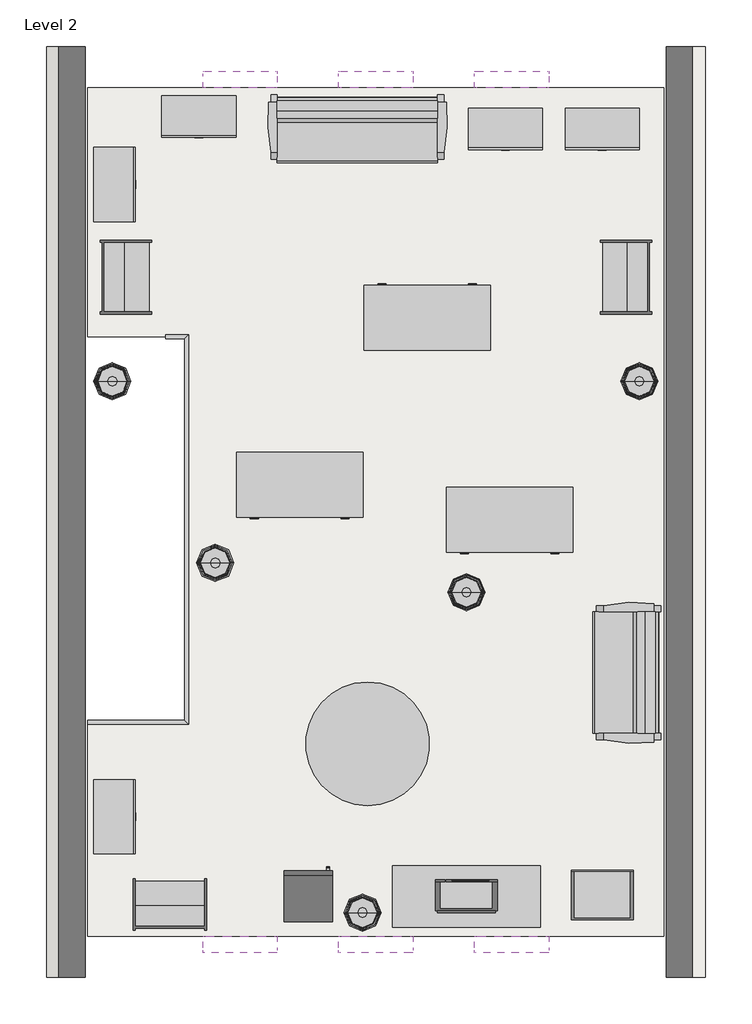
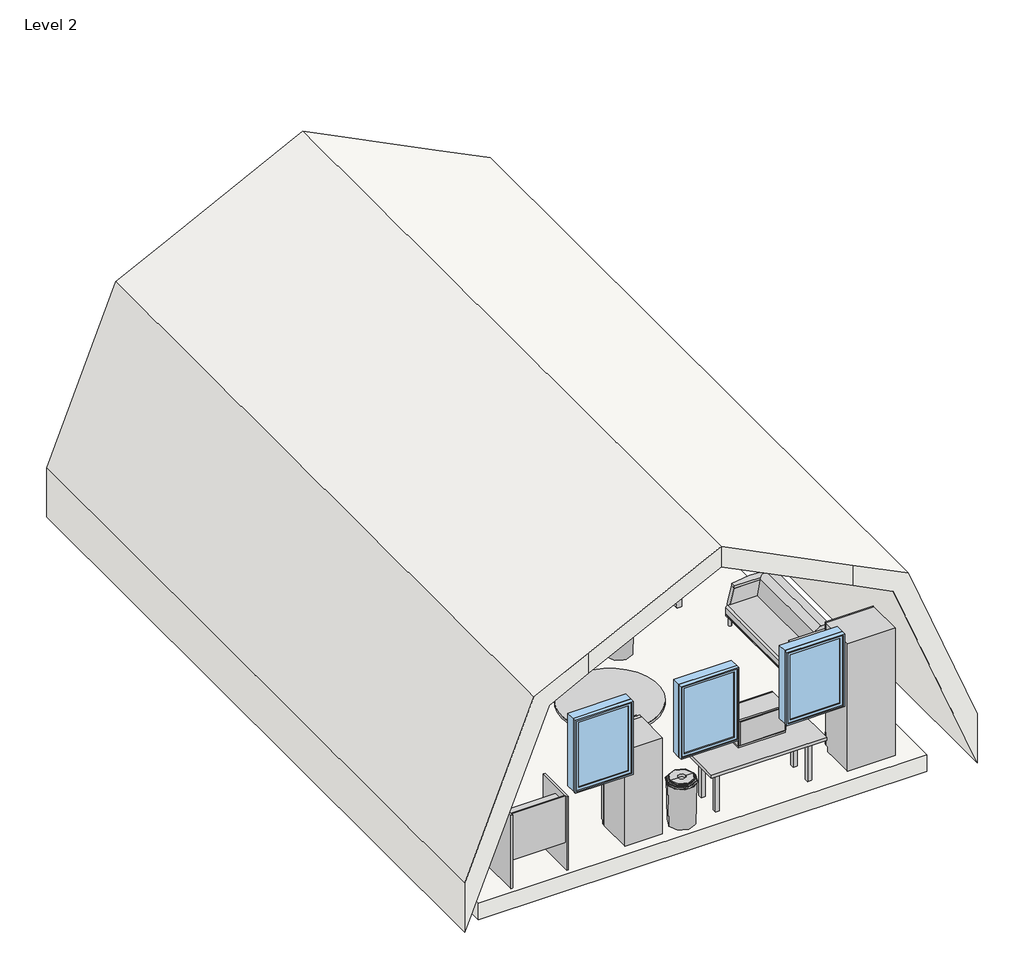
# One storey, incomplete: 13 furniture elements, 10 proxies, 6 windows, 1 railing, 1 roof, 1 slab.
"""IFC4 building model written with IfcOpenShell, lengths in millimetres."""

from ifc_helpers import new_model, si_unit, frame, origin, place, context, project, spatial, polyline, outline, extrude, faceted_brep, transform, mapped, element, save
from components import proxy_8a8d5ab2, recycle_bin_round_recycle_bin_round_6e7ed866, recycle_bin_round_recycle_bin_round_0a3017ed, proxy_c523a7b7, single_carrel_single_carrel_ed4d160c, single_carrel_single_carrel_0b646c7b, furniture_072f6425, furniture_ad7727fe, furniture_aff9b2fb, furniture_e1dba61b, furniture_bbcc68ce, furniture_a5b052b6, furniture_fb6977ac, window_209efcd5, window_e2841890

model = new_model("IFC4")

# Units and contexts
model_context = context("Model", 3, world=origin())
ifc_project = project(units=[si_unit("LENGTHUNIT", "METRE", prefix="MILLI")], contexts=[model_context])

# Site, building, storey
site = spatial("IfcSite", under=ifc_project)
building = spatial("IfcBuilding", under=site)
storey = spatial("IfcBuildingStorey", under=building, Name="Level 2", Elevation=3048.0)

# Proxies
placement = place(None, origin())
proxy_shape = proxy_8a8d5ab2(model_context)
element("IfcBuildingElementProxy", 1, Name="Microwave : 30\" x 16\" x 18\"", ObjectType="Microwave : 30\" x 16\" x 18\"", at=placement, inside=storey, context=model_context, shape_type="MappedRepresentation", body=[
    mapped(proxy_shape, transform((1298.9929626, -2842.4521645, 3048.0), x_axis=(-1.0, 0.0, 0.0), y_axis=(0.0, -1.0, 0.0), z_axis=(0.0, 0.0, 1.0))),
])
recycle_bin_round_recycle_bin_round_shape = recycle_bin_round_recycle_bin_round_6e7ed866(model_context)
element("IfcBuildingElementProxy", 2, Name="Recycle Bin-Round : Recycle Bin-Round", ObjectType="Recycle Bin-Round : Recycle Bin-Round", at=placement, inside=storey, context=model_context, shape_type="MappedRepresentation", body=[
    mapped(recycle_bin_round_recycle_bin_round_shape, transform((2932.3000853, 3864.4551123, 3048.0), x_axis=(1.0, 0.0, 0.0), y_axis=(0.0, 1.0, 0.0), z_axis=(0.0, 0.0, 1.0))),
])
element("IfcBuildingElementProxy", 3, Name="Recycle Bin-Round : Recycle Bin-Round", ObjectType="Recycle Bin-Round : Recycle Bin-Round", at=placement, inside=storey, context=model_context, shape_type="MappedRepresentation", body=[
    mapped(recycle_bin_round_recycle_bin_round_shape, transform((-483.9999147, -2688.7448877, 3048.0), x_axis=(1.0, 0.0, 0.0), y_axis=(0.0, 1.0, 0.0), z_axis=(0.0, 0.0, 1.0))),
])
element("IfcBuildingElementProxy", 4, Name="Recycle Bin-Round : Recycle Bin-Round", ObjectType="Recycle Bin-Round : Recycle Bin-Round", at=placement, inside=storey, context=model_context, shape_type="MappedRepresentation", body=[
    mapped(recycle_bin_round_recycle_bin_round_shape, transform((798.7000853, 1261.2072928, 3048.0), x_axis=(1.0, 0.0, 0.0), y_axis=(0.0, 1.0, 0.0), z_axis=(0.0, 0.0, 1.0))),
])
element("IfcBuildingElementProxy", 5, Name="Recycle Bin-Round : Recycle Bin-Round", ObjectType="Recycle Bin-Round : Recycle Bin-Round", at=placement, inside=storey, context=model_context, shape_type="MappedRepresentation", body=[
    mapped(recycle_bin_round_recycle_bin_round_shape, transform((-2300.0999147, 1623.4031401, 3048.0), x_axis=(1.0, 0.0, 0.0), y_axis=(0.0, 1.0, 0.0), z_axis=(0.0, 0.0, 1.0))),
])
recycle_bin_round_recycle_bin_round_2_shape = recycle_bin_round_recycle_bin_round_0a3017ed(model_context)
element("IfcBuildingElementProxy", 6, Name="Recycle Bin-Round : Recycle Bin-Round", ObjectType="Recycle Bin-Round : Recycle Bin-Round", at=placement, inside=storey, context=model_context, shape_type="MappedRepresentation", body=[
    mapped(recycle_bin_round_recycle_bin_round_2_shape, transform((-3570.0999147, 3864.4551123, 3048.0), x_axis=(-1.0, 0.0, 0.0), y_axis=(0.0, -1.0, 0.0), z_axis=(0.0, 0.0, 1.0))),
])
proxy_2_shape = proxy_c523a7b7(model_context)
element("IfcBuildingElementProxy", 7, Name="Refrigerator : 24\" x 25\" LH", ObjectType="Refrigerator : 24\" x 25\" LH", at=placement, inside=storey, context=model_context, shape_type="MappedRepresentation", body=[
    mapped(proxy_2_shape, transform((-1150.7499147, -2504.0476872, 3048.0), x_axis=(-1.0, 0.0, 0.0), y_axis=(0.0, -1.0, 0.0), z_axis=(0.0, 0.0, 1.0))),
])
single_carrel_single_carrel_shape = single_carrel_single_carrel_ed4d160c(model_context)
element("IfcBuildingElementProxy", 8, Name="Single Carrel : Single Carrel", ObjectType="Single Carrel : Single Carrel", at=placement, inside=storey, context=model_context, shape_type="MappedRepresentation", body=[
    mapped(single_carrel_single_carrel_shape, transform((3059.3000853, 5147.1551123, 3048.0), x_axis=(0.0, -1.0, 0.0), y_axis=(1.0, 0.0, 0.0), z_axis=(0.0, 0.0, 1.0))),
])
element("IfcBuildingElementProxy", 9, Name="Single Carrel : Single Carrel", ObjectType="Single Carrel : Single Carrel", at=placement, inside=storey, context=model_context, shape_type="MappedRepresentation", body=[
    mapped(single_carrel_single_carrel_shape, transform((-2858.8999147, -2879.2448877, 3048.0), x_axis=(-1.0000000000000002, 0.0, 0.0), y_axis=(0.0, -1.0000000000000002, 0.0), z_axis=(0.0, 0.0, 1.0))),
])
single_carrel_single_carrel_2_shape = single_carrel_single_carrel_0b646c7b(model_context)
element("IfcBuildingElementProxy", 10, Name="Single Carrel : Single Carrel", ObjectType="Single Carrel : Single Carrel", at=placement, inside=storey, context=model_context, shape_type="MappedRepresentation", body=[
    mapped(single_carrel_single_carrel_2_shape, transform((-3697.0999147, 5147.1551123, 3048.0), x_axis=(0.0, -1.0, 0.0), y_axis=(1.0, 0.0, 0.0), z_axis=(0.0, 0.0, 1.0))),
])

# Furniture
furniture_shape = furniture_072f6425(model_context)
element("IfcFurniture", 11, ObjectType="Desk : 60\" x 30\"", at=placement, inside=storey, context=model_context, shape_type="MappedRepresentation", body=[
    mapped(furniture_shape, transform((-445.8999147, 4267.1345845, 3048.0), x_axis=(1.0, 0.0, 0.0), y_axis=(0.0, 1.0, 0.0), z_axis=(0.0, 0.0, 1.0))),
])
element("IfcFurniture", 12, ObjectType="Desk : 60\" x 30\"", at=placement, inside=storey, context=model_context, shape_type="MappedRepresentation", body=[
    mapped(furniture_shape, transform((2094.1000853, 2537.5572928, 3048.0), x_axis=(-1.0, 0.0, 0.0), y_axis=(0.0, -1.0, 0.0), z_axis=(0.0, 0.0, 1.0))),
])
element("IfcFurniture", 13, ObjectType="Desk : 60\" x 30\"", at=placement, inside=storey, context=model_context, shape_type="MappedRepresentation", body=[
    mapped(furniture_shape, transform((-496.6999147, 2970.8609618, 3048.0), x_axis=(-1.0, 0.0, 0.0), y_axis=(0.0, -1.0, 0.0), z_axis=(0.0, 0.0, 1.0))),
])
furniture_2_shape = furniture_ad7727fe(model_context)
element("IfcFurniture", 14, ObjectType="Sofa-Pensi : 65\"", at=placement, inside=storey, context=model_context, shape_type="MappedRepresentation", body=[
    mapped(furniture_2_shape, transform((2502.7902492, 548.9613623, 3048.0), x_axis=(0.0, -1.0000000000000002, 0.0), y_axis=(1.0000000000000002, 0.0, 0.0), z_axis=(0.0, 0.0, 1.0))),
])
furniture_3_shape = furniture_aff9b2fb(model_context)
element("IfcFurniture", 15, ObjectType="Sofa-Pensi : 84\"", at=placement, inside=storey, context=model_context, shape_type="MappedRepresentation", body=[
    mapped(furniture_3_shape, transform((-826.1061647, 6698.8452762, 3048.0), x_axis=(1.0000000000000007, 0.0, 0.0), y_axis=(0.0, 1.0000000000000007, 0.0), z_axis=(0.0, 0.0, 1.0))),
])
furniture_4_shape = furniture_e1dba61b(model_context)
element("IfcFurniture", 16, ObjectType="Storage Pedestal : 20\" x 36\" x 36\"", at=placement, inside=storey, context=model_context, shape_type="MappedRepresentation", body=[
    mapped(furniture_4_shape, transform((2655.1225992, 7910.2734883, 3048.0), x_axis=(1.0, 0.0, 0.0), y_axis=(0.0, 1.0, 0.0), z_axis=(0.0, 0.0, 1.0))),
])
element("IfcFurniture", 17, ObjectType="Storage Pedestal : 20\" x 36\" x 36\"", at=placement, inside=storey, context=model_context, shape_type="MappedRepresentation", body=[
    mapped(furniture_4_shape, transform((1461.3225992, 7910.2734883, 3048.0), x_axis=(1.0, 0.0, 0.0), y_axis=(0.0, 1.0, 0.0), z_axis=(0.0, 0.0, 1.0))),
])
element("IfcFurniture", 18, ObjectType="Storage Pedestal : 20\" x 36\" x 36\"", at=placement, inside=storey, context=model_context, shape_type="MappedRepresentation", body=[
    mapped(furniture_4_shape, transform((-4479.0182908, -1327.6223738, 3048.0), x_axis=(0.0, 1.0, 0.0), y_axis=(-1.0, 0.0, 0.0), z_axis=(0.0, 0.0, 1.0))),
])
element("IfcFurniture", 19, ObjectType="Storage Pedestal : 20\" x 36\" x 36\"", at=placement, inside=storey, context=model_context, shape_type="MappedRepresentation", body=[
    mapped(furniture_4_shape, transform((-4479.0182908, 6470.1776262, 3048.0), x_axis=(0.0, 1.0, 0.0), y_axis=(-1.0, 0.0, 0.0), z_axis=(0.0, 0.0, 1.0))),
])
element("IfcFurniture", 20, ObjectType="Storage Pedestal : 20\" x 36\" x 36\"", at=placement, inside=storey, context=model_context, shape_type="MappedRepresentation", body=[
    mapped(furniture_4_shape, transform((-2323.2774008, 8062.6734883, 3048.0), x_axis=(1.0000000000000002, 0.0, 0.0), y_axis=(0.0, 1.0000000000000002, 0.0), z_axis=(0.0, 0.0, 1.0))),
])
furniture_5_shape = furniture_bbcc68ce(model_context)
element("IfcFurniture", 21, ObjectType="Table-Dining Round w Chairs : 60\" Diameter", at=placement, inside=storey, context=model_context, shape_type="MappedRepresentation", body=[
    mapped(furniture_5_shape, transform((-524.1818819, -424.0491284, 3048.0), x_axis=(1.0, 0.0, 0.0), y_axis=(0.0, 1.0, 0.0), z_axis=(0.0, 0.0, 1.0))),
])
furniture_6_shape = furniture_a5b052b6(model_context)
element("IfcFurniture", 22, ObjectType="Table-Rectangular : 72\" x 30\"", at=placement, inside=storey, context=model_context, shape_type="MappedRepresentation", body=[
    mapped(furniture_6_shape, transform((798.7000853, -2489.3716587, 3048.0), x_axis=(1.0, 0.0, 0.0), y_axis=(0.0, 1.0, 0.0), z_axis=(0.0, 0.0, 1.0))),
])
furniture_7_shape = furniture_fb6977ac(model_context)
element("IfcFurniture", 23, ObjectType="Tall Cabinet-2 Door-Built in : 30\"", at=placement, inside=storey, context=model_context, shape_type="MappedRepresentation", body=[
    mapped(furniture_7_shape, transform((2493.8377902, -2777.6448877, 3048.0), x_axis=(-1.0000000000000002, 0.0, 0.0), y_axis=(0.0, -1.0000000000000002, 0.0), z_axis=(0.0, 0.0, 1.0))),
])

# Railing
element("IfcRailing", 24, ObjectType="Handrail - Rectangular", at=placement, inside=storey, context=model_context, shape_type="SolidModel", body=[
    faceted_brep([(-2630.2999147, 4435.9551123, 3911.6), (-2630.2999147, 4435.9551123, 3962.4), (-2630.2999147, -364.6448877, 3962.4), (-2630.2999147, -364.6448877, 3911.6), (-2681.0999147, 4385.1551123, 3911.6), (-2681.0999147, -313.8448877, 3911.6), (-2681.0999147, 4385.1551123, 3962.4), (-2681.0999147, -313.8448877, 3962.4), (-3874.8999147, -364.6448877, 3962.4), (-3874.8999147, -313.8448877, 3962.4), (-3874.8999147, -313.8448877, 3911.6), (-3874.8999147, -364.6448877, 3911.6), (-2909.6999147, 4435.9551123, 3962.4), (-2909.6999147, 4435.9551123, 3911.6), (-2909.6999147, 4385.1551123, 3911.6), (-2909.6999147, 4385.1551123, 3962.4)], [[[0, 1, 2, 3]], [[4, 0, 3, 5]], [[6, 4, 5, 7]], [[1, 6, 7, 2]], [[8, 9, 10, 11]], [[3, 2, 8, 11]], [[5, 3, 11, 10]], [[7, 5, 10, 9]], [[2, 7, 9, 8]], [[12, 13, 14, 15]], [[13, 12, 1, 0]], [[14, 13, 0, 4]], [[15, 14, 4, 6]], [[12, 15, 6, 1]]]),
    extrude(outline(polyline([(-3763.7749147, -329.7198877), (-3763.7749147, -348.7698877), (-3782.8249147, -348.7698877), (-3782.8249147, -329.7198877), (-3763.7749147, -329.7198877)])), frame((0.0, 0.0, 3048.0), z_axis=(0.0, 0.0, 1.0), x_axis=(1.0, 0.0, 0.0)), (0.0, 0.0, 1.0), 863.6),
    extrude(outline(polyline([(-3662.1749147, -329.7198877), (-3662.1749147, -348.7698877), (-3681.2249147, -348.7698877), (-3681.2249147, -329.7198877), (-3662.1749147, -329.7198877)])), frame((0.0, 0.0, 3048.0), z_axis=(0.0, 0.0, 1.0), x_axis=(1.0, 0.0, 0.0)), (0.0, 0.0, 1.0), 863.6),
    extrude(outline(polyline([(-3560.5749147, -329.7198877), (-3560.5749147, -348.7698877), (-3579.6249147, -348.7698877), (-3579.6249147, -329.7198877), (-3560.5749147, -329.7198877)])), frame((0.0, 0.0, 3048.0), z_axis=(0.0, 0.0, 1.0), x_axis=(1.0, 0.0, 0.0)), (0.0, 0.0, 1.0), 863.6),
    extrude(outline(polyline([(-3458.9749147, -329.7198877), (-3458.9749147, -348.7698877), (-3478.0249147, -348.7698877), (-3478.0249147, -329.7198877), (-3458.9749147, -329.7198877)])), frame((0.0, 0.0, 3048.0), z_axis=(0.0, 0.0, 1.0), x_axis=(1.0, 0.0, 0.0)), (0.0, 0.0, 1.0), 863.6),
    extrude(outline(polyline([(-3357.3749147, -329.7198877), (-3357.3749147, -348.7698877), (-3376.4249147, -348.7698877), (-3376.4249147, -329.7198877), (-3357.3749147, -329.7198877)])), frame((0.0, 0.0, 3048.0), z_axis=(0.0, 0.0, 1.0), x_axis=(1.0, 0.0, 0.0)), (0.0, 0.0, 1.0), 863.6),
    extrude(outline(polyline([(-3255.7749147, -329.7198877), (-3255.7749147, -348.7698877), (-3274.8249147, -348.7698877), (-3274.8249147, -329.7198877), (-3255.7749147, -329.7198877)])), frame((0.0, 0.0, 3048.0), z_axis=(0.0, 0.0, 1.0), x_axis=(1.0, 0.0, 0.0)), (0.0, 0.0, 1.0), 863.6),
    extrude(outline(polyline([(-3154.1749147, -329.7198877), (-3154.1749147, -348.7698877), (-3173.2249147, -348.7698877), (-3173.2249147, -329.7198877), (-3154.1749147, -329.7198877)])), frame((0.0, 0.0, 3048.0), z_axis=(0.0, 0.0, 1.0), x_axis=(1.0, 0.0, 0.0)), (0.0, 0.0, 1.0), 863.6),
    extrude(outline(polyline([(-3052.5749147, -329.7198877), (-3052.5749147, -348.7698877), (-3071.6249147, -348.7698877), (-3071.6249147, -329.7198877), (-3052.5749147, -329.7198877)])), frame((0.0, 0.0, 3048.0), z_axis=(0.0, 0.0, 1.0), x_axis=(1.0, 0.0, 0.0)), (0.0, 0.0, 1.0), 863.6),
    extrude(outline(polyline([(-2950.9749147, -329.7198877), (-2950.9749147, -348.7698877), (-2970.0249147, -348.7698877), (-2970.0249147, -329.7198877), (-2950.9749147, -329.7198877)])), frame((0.0, 0.0, 3048.0), z_axis=(0.0, 0.0, 1.0), x_axis=(1.0, 0.0, 0.0)), (0.0, 0.0, 1.0), 863.6),
    extrude(outline(polyline([(-2849.3749147, -329.7198877), (-2849.3749147, -348.7698877), (-2868.4249147, -348.7698877), (-2868.4249147, -329.7198877), (-2849.3749147, -329.7198877)])), frame((0.0, 0.0, 3048.0), z_axis=(0.0, 0.0, 1.0), x_axis=(1.0, 0.0, 0.0)), (0.0, 0.0, 1.0), 863.6),
    extrude(outline(polyline([(-2747.7749147, -329.7198877), (-2747.7749147, -348.7698877), (-2766.8249147, -348.7698877), (-2766.8249147, -329.7198877), (-2747.7749147, -329.7198877)])), frame((0.0, 0.0, 3048.0), z_axis=(0.0, 0.0, 1.0), x_axis=(1.0, 0.0, 0.0)), (0.0, 0.0, 1.0), 863.6),
    extrude(outline(polyline([(-2665.2249147, -253.5198877), (-2646.1749147, -253.5198877), (-2646.1749147, -272.5698877), (-2665.2249147, -272.5698877), (-2665.2249147, -253.5198877)])), frame((0.0, 0.0, 3048.0), z_axis=(0.0, 0.0, 1.0), x_axis=(1.0, 0.0, 0.0)), (0.0, 0.0, 1.0), 863.6),
    extrude(outline(polyline([(-2665.2249147, -151.9198877), (-2646.1749147, -151.9198877), (-2646.1749147, -170.9698877), (-2665.2249147, -170.9698877), (-2665.2249147, -151.9198877)])), frame((0.0, 0.0, 3048.0), z_axis=(0.0, 0.0, 1.0), x_axis=(1.0, 0.0, 0.0)), (0.0, 0.0, 1.0), 863.6),
    extrude(outline(polyline([(-2665.2249147, -50.3198877), (-2646.1749147, -50.3198877), (-2646.1749147, -69.3698877), (-2665.2249147, -69.3698877), (-2665.2249147, -50.3198877)])), frame((0.0, 0.0, 3048.0), z_axis=(0.0, 0.0, 1.0), x_axis=(1.0, 0.0, 0.0)), (0.0, 0.0, 1.0), 863.6),
    extrude(outline(polyline([(-2665.2249147, 51.2801123), (-2646.1749147, 51.2801123), (-2646.1749147, 32.2301123), (-2665.2249147, 32.2301123), (-2665.2249147, 51.2801123)])), frame((0.0, 0.0, 3048.0), z_axis=(0.0, 0.0, 1.0), x_axis=(1.0, 0.0, 0.0)), (0.0, 0.0, 1.0), 863.6),
    extrude(outline(polyline([(-2665.2249147, 152.8801123), (-2646.1749147, 152.8801123), (-2646.1749147, 133.8301123), (-2665.2249147, 133.8301123), (-2665.2249147, 152.8801123)])), frame((0.0, 0.0, 3048.0), z_axis=(0.0, 0.0, 1.0), x_axis=(1.0, 0.0, 0.0)), (0.0, 0.0, 1.0), 863.6),
    extrude(outline(polyline([(-2665.2249147, 254.4801123), (-2646.1749147, 254.4801123), (-2646.1749147, 235.4301123), (-2665.2249147, 235.4301123), (-2665.2249147, 254.4801123)])), frame((0.0, 0.0, 3048.0), z_axis=(0.0, 0.0, 1.0), x_axis=(1.0, 0.0, 0.0)), (0.0, 0.0, 1.0), 863.6),
    extrude(outline(polyline([(-2665.2249147, 356.0801123), (-2646.1749147, 356.0801123), (-2646.1749147, 337.0301123), (-2665.2249147, 337.0301123), (-2665.2249147, 356.0801123)])), frame((0.0, 0.0, 3048.0), z_axis=(0.0, 0.0, 1.0), x_axis=(1.0, 0.0, 0.0)), (0.0, 0.0, 1.0), 863.6),
    extrude(outline(polyline([(-2665.2249147, 457.6801123), (-2646.1749147, 457.6801123), (-2646.1749147, 438.6301123), (-2665.2249147, 438.6301123), (-2665.2249147, 457.6801123)])), frame((0.0, 0.0, 3048.0), z_axis=(0.0, 0.0, 1.0), x_axis=(1.0, 0.0, 0.0)), (0.0, 0.0, 1.0), 863.6),
    extrude(outline(polyline([(-2665.2249147, 559.2801123), (-2646.1749147, 559.2801123), (-2646.1749147, 540.2301123), (-2665.2249147, 540.2301123), (-2665.2249147, 559.2801123)])), frame((0.0, 0.0, 3048.0), z_axis=(0.0, 0.0, 1.0), x_axis=(1.0, 0.0, 0.0)), (0.0, 0.0, 1.0), 863.6),
    extrude(outline(polyline([(-2665.2249147, 660.8801123), (-2646.1749147, 660.8801123), (-2646.1749147, 641.8301123), (-2665.2249147, 641.8301123), (-2665.2249147, 660.8801123)])), frame((0.0, 0.0, 3048.0), z_axis=(0.0, 0.0, 1.0), x_axis=(1.0, 0.0, 0.0)), (0.0, 0.0, 1.0), 863.6),
    extrude(outline(polyline([(-2665.2249147, 762.4801123), (-2646.1749147, 762.4801123), (-2646.1749147, 743.4301123), (-2665.2249147, 743.4301123), (-2665.2249147, 762.4801123)])), frame((0.0, 0.0, 3048.0), z_axis=(0.0, 0.0, 1.0), x_axis=(1.0, 0.0, 0.0)), (0.0, 0.0, 1.0), 863.6),
    extrude(outline(polyline([(-2665.2249147, 864.0801123), (-2646.1749147, 864.0801123), (-2646.1749147, 845.0301123), (-2665.2249147, 845.0301123), (-2665.2249147, 864.0801123)])), frame((0.0, 0.0, 3048.0), z_axis=(0.0, 0.0, 1.0), x_axis=(1.0, 0.0, 0.0)), (0.0, 0.0, 1.0), 863.6),
    extrude(outline(polyline([(-2665.2249147, 965.6801123), (-2646.1749147, 965.6801123), (-2646.1749147, 946.6301123), (-2665.2249147, 946.6301123), (-2665.2249147, 965.6801123)])), frame((0.0, 0.0, 3048.0), z_axis=(0.0, 0.0, 1.0), x_axis=(1.0, 0.0, 0.0)), (0.0, 0.0, 1.0), 863.6),
    extrude(outline(polyline([(-2665.2249147, 1067.2801123), (-2646.1749147, 1067.2801123), (-2646.1749147, 1048.2301123), (-2665.2249147, 1048.2301123), (-2665.2249147, 1067.2801123)])), frame((0.0, 0.0, 3048.0), z_axis=(0.0, 0.0, 1.0), x_axis=(1.0, 0.0, 0.0)), (0.0, 0.0, 1.0), 863.6),
    extrude(outline(polyline([(-2665.2249147, 1168.8801123), (-2646.1749147, 1168.8801123), (-2646.1749147, 1149.8301123), (-2665.2249147, 1149.8301123), (-2665.2249147, 1168.8801123)])), frame((0.0, 0.0, 3048.0), z_axis=(0.0, 0.0, 1.0), x_axis=(1.0, 0.0, 0.0)), (0.0, 0.0, 1.0), 863.6),
    extrude(outline(polyline([(-2665.2249147, 1270.4801123), (-2646.1749147, 1270.4801123), (-2646.1749147, 1251.4301123), (-2665.2249147, 1251.4301123), (-2665.2249147, 1270.4801123)])), frame((0.0, 0.0, 3048.0), z_axis=(0.0, 0.0, 1.0), x_axis=(1.0, 0.0, 0.0)), (0.0, 0.0, 1.0), 863.6),
    extrude(outline(polyline([(-2665.2249147, 1372.0801123), (-2646.1749147, 1372.0801123), (-2646.1749147, 1353.0301123), (-2665.2249147, 1353.0301123), (-2665.2249147, 1372.0801123)])), frame((0.0, 0.0, 3048.0), z_axis=(0.0, 0.0, 1.0), x_axis=(1.0, 0.0, 0.0)), (0.0, 0.0, 1.0), 863.6),
    extrude(outline(polyline([(-2665.2249147, 1473.6801123), (-2646.1749147, 1473.6801123), (-2646.1749147, 1454.6301123), (-2665.2249147, 1454.6301123), (-2665.2249147, 1473.6801123)])), frame((0.0, 0.0, 3048.0), z_axis=(0.0, 0.0, 1.0), x_axis=(1.0, 0.0, 0.0)), (0.0, 0.0, 1.0), 863.6),
    extrude(outline(polyline([(-2665.2249147, 1575.2801123), (-2646.1749147, 1575.2801123), (-2646.1749147, 1556.2301123), (-2665.2249147, 1556.2301123), (-2665.2249147, 1575.2801123)])), frame((0.0, 0.0, 3048.0), z_axis=(0.0, 0.0, 1.0), x_axis=(1.0, 0.0, 0.0)), (0.0, 0.0, 1.0), 863.6),
    extrude(outline(polyline([(-2665.2249147, 1676.8801123), (-2646.1749147, 1676.8801123), (-2646.1749147, 1657.8301123), (-2665.2249147, 1657.8301123), (-2665.2249147, 1676.8801123)])), frame((0.0, 0.0, 3048.0), z_axis=(0.0, 0.0, 1.0), x_axis=(1.0, 0.0, 0.0)), (0.0, 0.0, 1.0), 863.6),
    extrude(outline(polyline([(-2665.2249147, 1778.4801123), (-2646.1749147, 1778.4801123), (-2646.1749147, 1759.4301123), (-2665.2249147, 1759.4301123), (-2665.2249147, 1778.4801123)])), frame((0.0, 0.0, 3048.0), z_axis=(0.0, 0.0, 1.0), x_axis=(1.0, 0.0, 0.0)), (0.0, 0.0, 1.0), 863.6),
    extrude(outline(polyline([(-2665.2249147, 1880.0801123), (-2646.1749147, 1880.0801123), (-2646.1749147, 1861.0301123), (-2665.2249147, 1861.0301123), (-2665.2249147, 1880.0801123)])), frame((0.0, 0.0, 3048.0), z_axis=(0.0, 0.0, 1.0), x_axis=(1.0, 0.0, 0.0)), (0.0, 0.0, 1.0), 863.6),
    extrude(outline(polyline([(-2665.2249147, 1981.6801123), (-2646.1749147, 1981.6801123), (-2646.1749147, 1962.6301123), (-2665.2249147, 1962.6301123), (-2665.2249147, 1981.6801123)])), frame((0.0, 0.0, 3048.0), z_axis=(0.0, 0.0, 1.0), x_axis=(1.0, 0.0, 0.0)), (0.0, 0.0, 1.0), 863.6),
    extrude(outline(polyline([(-2665.2249147, 2083.2801123), (-2646.1749147, 2083.2801123), (-2646.1749147, 2064.2301123), (-2665.2249147, 2064.2301123), (-2665.2249147, 2083.2801123)])), frame((0.0, 0.0, 3048.0), z_axis=(0.0, 0.0, 1.0), x_axis=(1.0, 0.0, 0.0)), (0.0, 0.0, 1.0), 863.6),
    extrude(outline(polyline([(-2665.2249147, 2184.8801123), (-2646.1749147, 2184.8801123), (-2646.1749147, 2165.8301123), (-2665.2249147, 2165.8301123), (-2665.2249147, 2184.8801123)])), frame((0.0, 0.0, 3048.0), z_axis=(0.0, 0.0, 1.0), x_axis=(1.0, 0.0, 0.0)), (0.0, 0.0, 1.0), 863.6),
    extrude(outline(polyline([(-2665.2249147, 2286.4801123), (-2646.1749147, 2286.4801123), (-2646.1749147, 2267.4301123), (-2665.2249147, 2267.4301123), (-2665.2249147, 2286.4801123)])), frame((0.0, 0.0, 3048.0), z_axis=(0.0, 0.0, 1.0), x_axis=(1.0, 0.0, 0.0)), (0.0, 0.0, 1.0), 863.6),
    extrude(outline(polyline([(-2665.2249147, 2388.0801123), (-2646.1749147, 2388.0801123), (-2646.1749147, 2369.0301123), (-2665.2249147, 2369.0301123), (-2665.2249147, 2388.0801123)])), frame((0.0, 0.0, 3048.0), z_axis=(0.0, 0.0, 1.0), x_axis=(1.0, 0.0, 0.0)), (0.0, 0.0, 1.0), 863.6),
    extrude(outline(polyline([(-2665.2249147, 2489.6801123), (-2646.1749147, 2489.6801123), (-2646.1749147, 2470.6301123), (-2665.2249147, 2470.6301123), (-2665.2249147, 2489.6801123)])), frame((0.0, 0.0, 3048.0), z_axis=(0.0, 0.0, 1.0), x_axis=(1.0, 0.0, 0.0)), (0.0, 0.0, 1.0), 863.6),
    extrude(outline(polyline([(-2665.2249147, 2591.2801123), (-2646.1749147, 2591.2801123), (-2646.1749147, 2572.2301123), (-2665.2249147, 2572.2301123), (-2665.2249147, 2591.2801123)])), frame((0.0, 0.0, 3048.0), z_axis=(0.0, 0.0, 1.0), x_axis=(1.0, 0.0, 0.0)), (0.0, 0.0, 1.0), 863.6),
    extrude(outline(polyline([(-2665.2249147, 2692.8801123), (-2646.1749147, 2692.8801123), (-2646.1749147, 2673.8301123), (-2665.2249147, 2673.8301123), (-2665.2249147, 2692.8801123)])), frame((0.0, 0.0, 3048.0), z_axis=(0.0, 0.0, 1.0), x_axis=(1.0, 0.0, 0.0)), (0.0, 0.0, 1.0), 863.6),
    extrude(outline(polyline([(-2665.2249147, 2794.4801123), (-2646.1749147, 2794.4801123), (-2646.1749147, 2775.4301123), (-2665.2249147, 2775.4301123), (-2665.2249147, 2794.4801123)])), frame((0.0, 0.0, 3048.0), z_axis=(0.0, 0.0, 1.0), x_axis=(1.0, 0.0, 0.0)), (0.0, 0.0, 1.0), 863.6),
    extrude(outline(polyline([(-2665.2249147, 2896.0801123), (-2646.1749147, 2896.0801123), (-2646.1749147, 2877.0301123), (-2665.2249147, 2877.0301123), (-2665.2249147, 2896.0801123)])), frame((0.0, 0.0, 3048.0), z_axis=(0.0, 0.0, 1.0), x_axis=(1.0, 0.0, 0.0)), (0.0, 0.0, 1.0), 863.6),
    extrude(outline(polyline([(-2665.2249147, 2997.6801123), (-2646.1749147, 2997.6801123), (-2646.1749147, 2978.6301123), (-2665.2249147, 2978.6301123), (-2665.2249147, 2997.6801123)])), frame((0.0, 0.0, 3048.0), z_axis=(0.0, 0.0, 1.0), x_axis=(1.0, 0.0, 0.0)), (0.0, 0.0, 1.0), 863.6),
    extrude(outline(polyline([(-2665.2249147, 3099.2801123), (-2646.1749147, 3099.2801123), (-2646.1749147, 3080.2301123), (-2665.2249147, 3080.2301123), (-2665.2249147, 3099.2801123)])), frame((0.0, 0.0, 3048.0), z_axis=(0.0, 0.0, 1.0), x_axis=(1.0, 0.0, 0.0)), (0.0, 0.0, 1.0), 863.6),
    extrude(outline(polyline([(-2665.2249147, 3200.8801123), (-2646.1749147, 3200.8801123), (-2646.1749147, 3181.8301123), (-2665.2249147, 3181.8301123), (-2665.2249147, 3200.8801123)])), frame((0.0, 0.0, 3048.0), z_axis=(0.0, 0.0, 1.0), x_axis=(1.0, 0.0, 0.0)), (0.0, 0.0, 1.0), 863.6),
    extrude(outline(polyline([(-2665.2249147, 3302.4801123), (-2646.1749147, 3302.4801123), (-2646.1749147, 3283.4301123), (-2665.2249147, 3283.4301123), (-2665.2249147, 3302.4801123)])), frame((0.0, 0.0, 3048.0), z_axis=(0.0, 0.0, 1.0), x_axis=(1.0, 0.0, 0.0)), (0.0, 0.0, 1.0), 863.6),
    extrude(outline(polyline([(-2665.2249147, 3404.0801123), (-2646.1749147, 3404.0801123), (-2646.1749147, 3385.0301123), (-2665.2249147, 3385.0301123), (-2665.2249147, 3404.0801123)])), frame((0.0, 0.0, 3048.0), z_axis=(0.0, 0.0, 1.0), x_axis=(1.0, 0.0, 0.0)), (0.0, 0.0, 1.0), 863.6),
    extrude(outline(polyline([(-2665.2249147, 3505.6801123), (-2646.1749147, 3505.6801123), (-2646.1749147, 3486.6301123), (-2665.2249147, 3486.6301123), (-2665.2249147, 3505.6801123)])), frame((0.0, 0.0, 3048.0), z_axis=(0.0, 0.0, 1.0), x_axis=(1.0, 0.0, 0.0)), (0.0, 0.0, 1.0), 863.6),
    extrude(outline(polyline([(-2665.2249147, 3607.2801123), (-2646.1749147, 3607.2801123), (-2646.1749147, 3588.2301123), (-2665.2249147, 3588.2301123), (-2665.2249147, 3607.2801123)])), frame((0.0, 0.0, 3048.0), z_axis=(0.0, 0.0, 1.0), x_axis=(1.0, 0.0, 0.0)), (0.0, 0.0, 1.0), 863.6),
    extrude(outline(polyline([(-2665.2249147, 3708.8801123), (-2646.1749147, 3708.8801123), (-2646.1749147, 3689.8301123), (-2665.2249147, 3689.8301123), (-2665.2249147, 3708.8801123)])), frame((0.0, 0.0, 3048.0), z_axis=(0.0, 0.0, 1.0), x_axis=(1.0, 0.0, 0.0)), (0.0, 0.0, 1.0), 863.6),
    extrude(outline(polyline([(-2665.2249147, 3810.4801123), (-2646.1749147, 3810.4801123), (-2646.1749147, 3791.4301123), (-2665.2249147, 3791.4301123), (-2665.2249147, 3810.4801123)])), frame((0.0, 0.0, 3048.0), z_axis=(0.0, 0.0, 1.0), x_axis=(1.0, 0.0, 0.0)), (0.0, 0.0, 1.0), 863.6),
    extrude(outline(polyline([(-2665.2249147, 3912.0801123), (-2646.1749147, 3912.0801123), (-2646.1749147, 3893.0301123), (-2665.2249147, 3893.0301123), (-2665.2249147, 3912.0801123)])), frame((0.0, 0.0, 3048.0), z_axis=(0.0, 0.0, 1.0), x_axis=(1.0, 0.0, 0.0)), (0.0, 0.0, 1.0), 863.6),
    extrude(outline(polyline([(-2665.2249147, 4013.6801123), (-2646.1749147, 4013.6801123), (-2646.1749147, 3994.6301123), (-2665.2249147, 3994.6301123), (-2665.2249147, 4013.6801123)])), frame((0.0, 0.0, 3048.0), z_axis=(0.0, 0.0, 1.0), x_axis=(1.0, 0.0, 0.0)), (0.0, 0.0, 1.0), 863.6),
    extrude(outline(polyline([(-2665.2249147, 4115.2801123), (-2646.1749147, 4115.2801123), (-2646.1749147, 4096.2301123), (-2665.2249147, 4096.2301123), (-2665.2249147, 4115.2801123)])), frame((0.0, 0.0, 3048.0), z_axis=(0.0, 0.0, 1.0), x_axis=(1.0, 0.0, 0.0)), (0.0, 0.0, 1.0), 863.6),
    extrude(outline(polyline([(-2665.2249147, 4216.8801123), (-2646.1749147, 4216.8801123), (-2646.1749147, 4197.8301123), (-2665.2249147, 4197.8301123), (-2665.2249147, 4216.8801123)])), frame((0.0, 0.0, 3048.0), z_axis=(0.0, 0.0, 1.0), x_axis=(1.0, 0.0, 0.0)), (0.0, 0.0, 1.0), 863.6),
    extrude(outline(polyline([(-2665.2249147, 4318.4801123), (-2646.1749147, 4318.4801123), (-2646.1749147, 4299.4301123), (-2665.2249147, 4299.4301123), (-2665.2249147, 4318.4801123)])), frame((0.0, 0.0, 3048.0), z_axis=(0.0, 0.0, 1.0), x_axis=(1.0, 0.0, 0.0)), (0.0, 0.0, 1.0), 863.6),
    extrude(outline(polyline([(-2716.0249147, 4401.0301123), (-2716.0249147, 4420.0801123), (-2696.9749147, 4420.0801123), (-2696.9749147, 4401.0301123), (-2716.0249147, 4401.0301123)])), frame((0.0, 0.0, 3048.0), z_axis=(0.0, 0.0, 1.0), x_axis=(1.0, 0.0, 0.0)), (0.0, 0.0, 1.0), 863.6),
    extrude(outline(polyline([(-2817.6249147, 4401.0301123), (-2817.6249147, 4420.0801123), (-2798.5749147, 4420.0801123), (-2798.5749147, 4401.0301123), (-2817.6249147, 4401.0301123)])), frame((0.0, 0.0, 3048.0), z_axis=(0.0, 0.0, 1.0), x_axis=(1.0, 0.0, 0.0)), (0.0, 0.0, 1.0), 863.6),
    extrude(outline(polyline([(-2665.2249147, -329.7198877), (-2646.1749147, -329.7198877), (-2646.1749147, -348.7698877), (-2665.2249147, -348.7698877), (-2665.2249147, -329.7198877)])), frame((0.0, 0.0, 3048.0), z_axis=(0.0, 0.0, 1.0), x_axis=(1.0, 0.0, 0.0)), (0.0, 0.0, 1.0), 863.6),
    extrude(outline(polyline([(-2665.2249147, 4401.0301123), (-2665.2249147, 4420.0801123), (-2646.1749147, 4420.0801123), (-2646.1749147, 4401.0301123), (-2665.2249147, 4401.0301123)])), frame((0.0, 0.0, 3048.0), z_axis=(0.0, 0.0, 1.0), x_axis=(1.0, 0.0, 0.0)), (0.0, 0.0, 1.0), 863.6),
    extrude(outline(polyline([(-3855.8499147, -329.7198877), (-3855.8499147, -348.7698877), (-3874.8999147, -348.7698877), (-3874.8999147, -329.7198877), (-3855.8499147, -329.7198877)])), frame((0.0, 0.0, 3048.0), z_axis=(0.0, 0.0, 1.0), x_axis=(1.0, 0.0, 0.0)), (0.0, 0.0, 1.0), 863.6),
    extrude(outline(polyline([(-2909.6999147, 4401.0301123), (-2909.6999147, 4420.0801123), (-2890.6499147, 4420.0801123), (-2890.6499147, 4401.0301123), (-2909.6999147, 4401.0301123)])), frame((0.0, 0.0, 3048.0), z_axis=(0.0, 0.0, 1.0), x_axis=(1.0, 0.0, 0.0)), (0.0, 0.0, 1.0), 863.6),
])

# Roof
element("IfcRoof", 25, ObjectType="Generic - 12\"", at=placement, inside=storey, context=model_context, shape_type="Brep", body=[
    faceted_brep([(-3046.4233522, 7991.9551123, 6389.1914062), (-2413.6061647, 7991.9551123, 6705.6), (-318.8999147, 7991.9551123, 7752.953125), (-318.8999147, -3488.8448877, 7752.953125), (-2413.6061647, -3488.8448877, 6705.6), (-3046.4233522, -3488.8448877, 6389.1914062), (-4382.8999147, -3488.8448877, 3048.0), (-4382.8999147, 7991.9551123, 3048.0), (3745.1000853, 7991.9551123, 3048.0), (3745.1000853, -3488.8448877, 3048.0), (2408.6235228, -3488.8448877, 6389.1914062), (2408.6235228, 7991.9551123, 6389.1914062), (-2413.6061647, 7991.9551123, 7046.3767598), (-3286.3845306, 7991.9551123, 6609.9875768), (-3286.3845306, -3488.8448877, 6609.9875768), (-2413.6061647, -3488.8448877, 7046.3767598), (-318.8999147, -3488.8448877, 8093.7298848), (-318.8999147, 7991.9551123, 8093.7298848), (-4382.8999147, 7991.9551123, 3868.6991166), (-4382.8999147, -3488.8448877, 3868.6991166), (1775.8063353, -3488.8448877, 7046.3767598), (2648.5847012, -3488.8448877, 6609.9875768), (2648.5847012, 7991.9551123, 6609.9875768), (1775.8063353, 7991.9551123, 7046.3767598), (3745.1000853, -3488.8448877, 3868.6991166), (3745.1000853, 7991.9551123, 3868.6991166), (1775.8063353, -3488.8448877, 6705.6), (1775.8063353, 7991.9551123, 6705.6)], [[[0, 1, 2, 3, 4, 5]], [[6, 7, 0, 5]], [[8, 9, 10, 11]], [[12, 13, 14, 15, 16, 17]], [[18, 19, 14, 13]], [[16, 20, 21, 22, 23, 17]], [[24, 25, 22, 21]], [[18, 13, 12, 1, 0, 7]], [[25, 24, 9, 8]], [[24, 21, 20, 26, 10, 9]], [[19, 18, 7, 6]], [[17, 23, 27, 2]], [[16, 15, 4, 3]], [[12, 17, 2, 1]], [[23, 22, 25, 8, 11, 27]], [[15, 14, 19, 6, 5, 4]], [[20, 16, 3, 26]], [[3, 2, 27, 11, 10, 26]]]),
])

# Slab
element("IfcSlab", 26, ObjectType="Wood Joist 10\" - Wood Finish", at=placement, inside=storey, context=model_context, shape_type="SweptSolid", body=[
    extrude(outline(polyline([(3237.1000853, 7483.9551123), (3237.1000853, -2980.8448877), (-3874.8999147, -2980.8448877), (-3874.8999147, -339.2448877), (-2655.6999147, -339.2448877), (-2655.6999147, 4410.5551123), (-3874.8999147, 4410.5551123), (-3874.8999147, 7483.9551123), (3237.1000853, 7483.9551123)])), frame((0.0, 0.0, 2774.95), z_axis=(0.0, 0.0, 1.0), x_axis=(1.0, 0.0, 0.0)), (0.0, 0.0, 1.0), 273.05),
])

# Windows
window_shape = window_209efcd5(model_context)
element("IfcWindow", 27, ObjectType="Fixed : 36\" x 48\"", at=placement, inside=storey, context=model_context, shape_type="MappedRepresentation", body=[
    mapped(window_shape, transform((-356.9999147, 7585.5551123, 3585.9863285), x_axis=(-1.0, 0.0, 0.0), y_axis=(0.0, -1.0, 0.0), z_axis=(0.0, 0.0, 1.0))),
])
element("IfcWindow", 28, ObjectType="Fixed : 36\" x 48\"", at=placement, inside=storey, context=model_context, shape_type="MappedRepresentation", body=[
    mapped(window_shape, transform((-2033.3999147, 7585.5551123, 3606.4568528), x_axis=(-1.0, 0.0, 0.0), y_axis=(0.0, -1.0, 0.0), z_axis=(0.0, 0.0, 1.0))),
])
element("IfcWindow", 29, ObjectType="Fixed : 36\" x 48\"", at=placement, inside=storey, context=model_context, shape_type="MappedRepresentation", body=[
    mapped(window_shape, transform((1319.4000853, 7585.5551123, 3565.5158042), x_axis=(-1.0, 0.0, 0.0), y_axis=(0.0, -1.0, 0.0), z_axis=(0.0, 0.0, 1.0))),
])
window_2_shape = window_e2841890(model_context)
element("IfcWindow", 30, ObjectType="Fixed : 36\" x 48\"", at=placement, inside=storey, context=model_context, shape_type="MappedRepresentation", body=[
    mapped(window_2_shape, transform((-356.9999147, -3082.4448877, 3585.9863285), x_axis=(-1.0, 0.0, 0.0), y_axis=(0.0, -1.0, 0.0), z_axis=(0.0, 0.0, 1.0))),
])
element("IfcWindow", 31, ObjectType="Fixed : 36\" x 48\"", at=placement, inside=storey, context=model_context, shape_type="MappedRepresentation", body=[
    mapped(window_2_shape, transform((-2033.3999147, -3082.4448877, 3606.4568528), x_axis=(-1.0, 0.0, 0.0), y_axis=(0.0, -1.0, 0.0), z_axis=(0.0, 0.0, 1.0))),
])
element("IfcWindow", 32, ObjectType="Fixed : 36\" x 48\"", at=placement, inside=storey, context=model_context, shape_type="MappedRepresentation", body=[
    mapped(window_2_shape, transform((1319.4000853, -3082.4448877, 3565.5158042), x_axis=(-1.0, 0.0, 0.0), y_axis=(0.0, -1.0, 0.0), z_axis=(0.0, 0.0, 1.0))),
])

save(model, "model.ifc")
